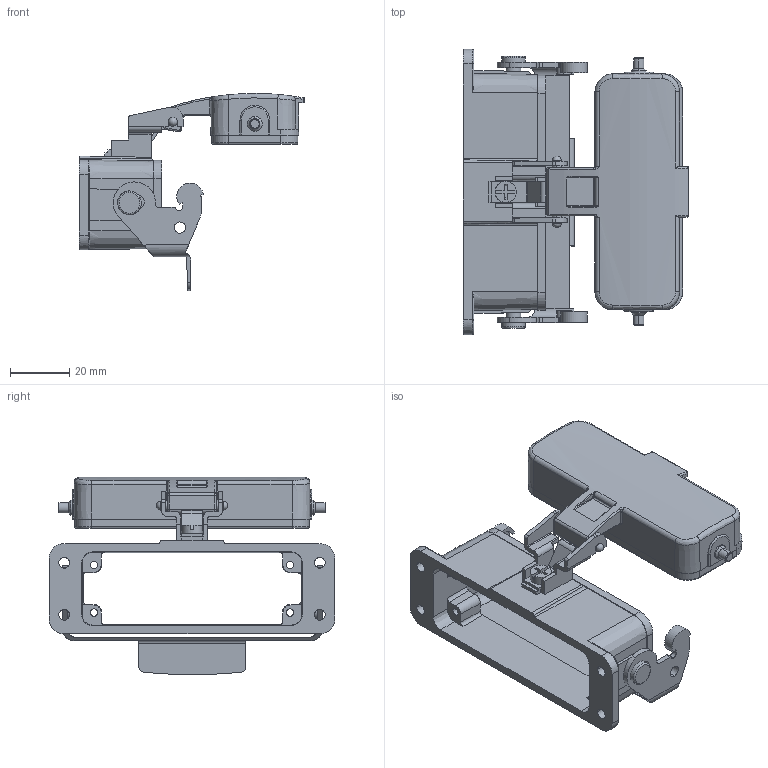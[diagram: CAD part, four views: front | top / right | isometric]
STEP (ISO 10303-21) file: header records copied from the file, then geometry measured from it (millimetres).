
FILE_DESCRIPTION((''),'2;1');
FILE_NAME('H16A-AD__ASM','2022-07-11T',('PC'),(''),'PRO/ENGINEER BY PARAMETRIC TECHNOLOGY CORPORATION, 2009220','PRO/ENGINEER BY PARAMETRIC TECHNOLOGY CORPORATION, 2009220','');
FILE_SCHEMA(('CONFIG_CONTROL_DESIGN'));
Length unit declared in the file: millimetre
Products named in the file (4): ____9_09016001125; H16A-AD_220214_ASM; _H16A-AD_; H16A-AD__ASM
Assembly tree (3 placements, depth 3):
  H16A-AD__ASM
    H16A-AD_220214_ASM
      ____9_09016001125
    _H16A-AD_
Bounding box: 75.74 x 96.12 x 66.31 mm (x, y, z)
Volume: 36827.2 mm3; surface area: 33854.9 mm2
Topology: 1 solids, 3 shells, 658 faces, 1792 edges, 1142 vertices
Faces by surface type: plane 254, cylinder 239, bspline 81, cone 43, torus 37, sphere 4
Entity records: 26357 total; most frequent: CARTESIAN_POINT 9817, ORIENTED_EDGE 3558, DIRECTION 3347, EDGE_CURVE 1779, AXIS2_PLACEMENT_3D 1215, VERTEX_POINT 1142, VECTOR 917, LINE 917
